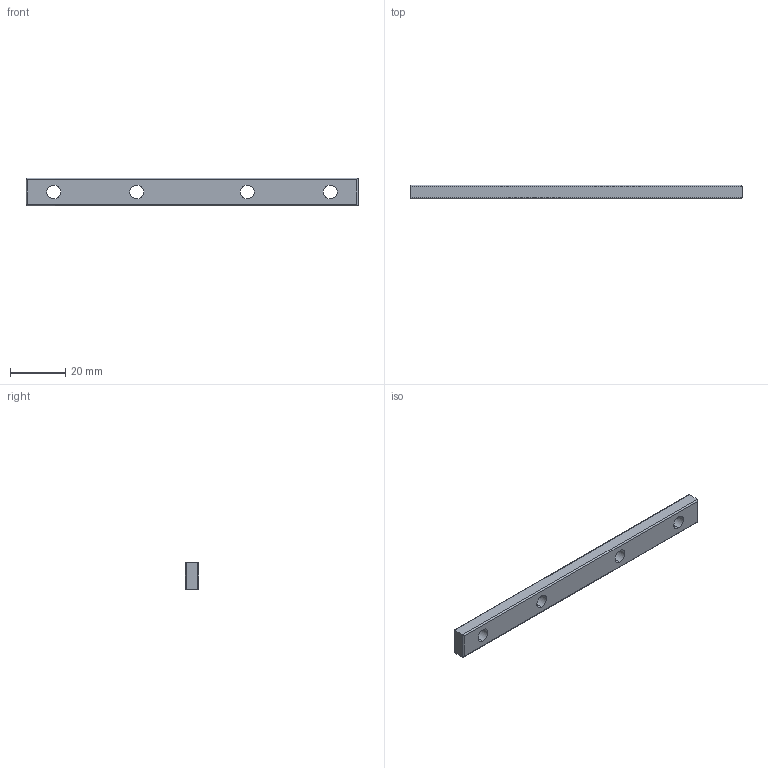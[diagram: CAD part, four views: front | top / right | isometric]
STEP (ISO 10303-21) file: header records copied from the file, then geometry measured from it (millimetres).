
FILE_DESCRIPTION (( 'STEP AP203' ), '1' );
FILE_NAME ('HL06120.STEP', '2024-02-17T07:09:30', ( '' ), ( '' ), 'SwSTEP 2.0', 'SolidWorks 2022', '' );
FILE_SCHEMA (( 'CONFIG_CONTROL_DESIGN' ));
Length unit declared in the file: millimetre
Products named in the file (1): HL06120
Bounding box: 120 x 5 x 10 mm (x, y, z)
Volume: 5579.5 mm3; surface area: 3745.2 mm2
Topology: 1 solids, 1 shells, 22 faces, 52 edges, 32 vertices
Faces by surface type: cylinder 16, plane 6
Entity records: 721 total; most frequent: CARTESIAN_POINT 131, DIRECTION 106, ORIENTED_EDGE 104, EDGE_CURVE 52, AXIS2_PLACEMENT_3D 39, VERTEX_POINT 32, EDGE_LOOP 30, LINE 28
